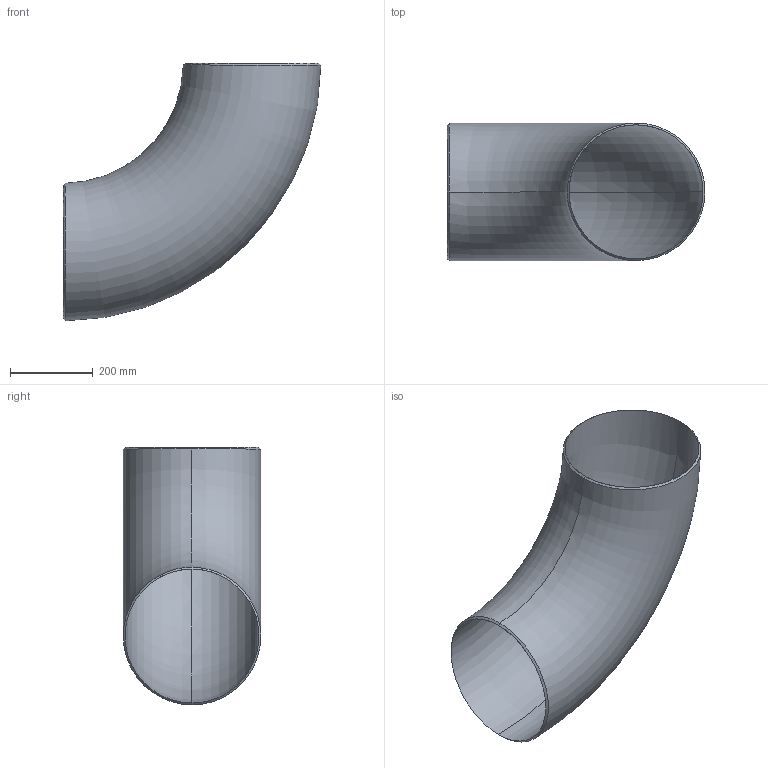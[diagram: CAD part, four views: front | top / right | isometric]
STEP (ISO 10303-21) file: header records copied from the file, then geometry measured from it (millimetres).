
FILE_DESCRIPTION (( 'STEP AP203' ), '1' );
FILE_NAME ('3D_R2651_12X10S_173425310.STEP', '2024-08-22T09:45:57', ( '' ), ( '' ), 'SwSTEP 2.0', 'SolidWorks 2024', '' );
FILE_SCHEMA (( 'CONFIG_CONTROL_DESIGN' ));
Length unit declared in the file: millimetre
Products named in the file (1): 3D_R2651_12X10S_173425310
Bounding box: 623.7 x 333.04 x 623.7 mm (x, y, z)
Volume: 3292003.1 mm3; surface area: 1483117.9 mm2
Topology: 1 solids, 1 shells, 10 faces, 24 edges, 15 vertices
Faces by surface type: bspline 4, torus 4, plane 2
Entity records: 4412 total; most frequent: CARTESIAN_POINT 4133, ORIENTED_EDGE 48, DIRECTION 30, EDGE_CURVE 24, B_SPLINE_CURVE_WITH_KNOTS 16, AXIS2_PLACEMENT_3D 15, VERTEX_POINT 15, EDGE_LOOP 11
